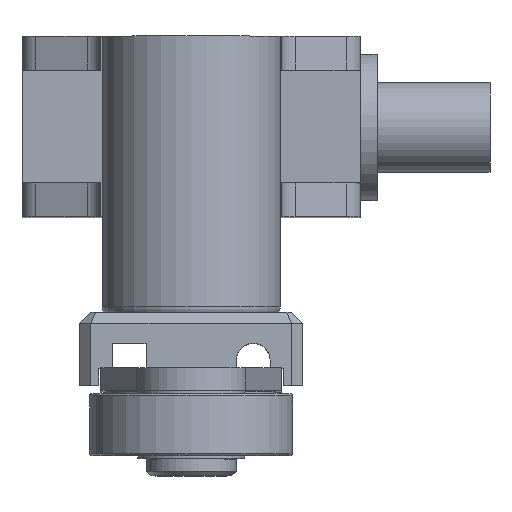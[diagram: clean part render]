
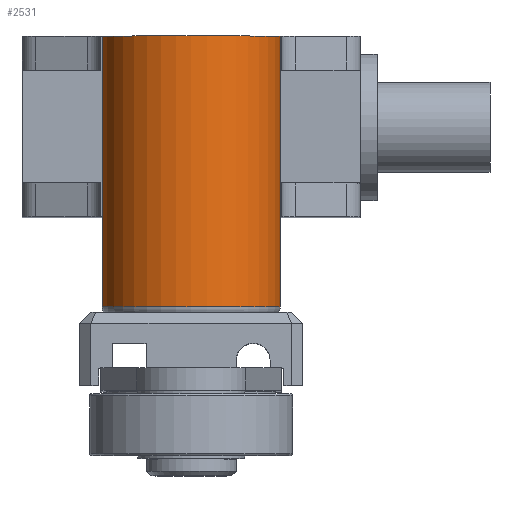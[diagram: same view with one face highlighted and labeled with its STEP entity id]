
A CAD part, top view. The second image highlights one B-rep face of the part: STEP entity #2531.
In plain terms, the highlighted cylindrical face has radius 7.9 mm (diameter 15.8 mm), a full revolution.
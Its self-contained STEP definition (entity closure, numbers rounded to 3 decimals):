
#346=FACE_OUTER_BOUND('',#516,.T.);
#516=EDGE_LOOP('',(#2319,#2320,#2321,#2322,#2323,#2324,#2325));
#753=LINE('',#4244,#994);
#754=LINE('',#4246,#995);
#755=LINE('',#4250,#996);
#994=VECTOR('',#3512,7.9);
#995=VECTOR('',#3513,10.);
#996=VECTOR('',#3516,10.);
#1098=CIRCLE('',#2795,7.9);
#1102=CIRCLE('',#2801,7.9);
#1103=CIRCLE('',#2802,7.9);
#1316=VERTEX_POINT('',#4234);
#1319=VERTEX_POINT('',#4243);
#1320=VERTEX_POINT('',#4245);
#1321=VERTEX_POINT('',#4247);
#1322=VERTEX_POINT('',#4249);
#1650=EDGE_CURVE('',#1316,#1316,#1098,.T.);
#1654=EDGE_CURVE('',#1316,#1319,#753,.T.);
#1655=EDGE_CURVE('',#1320,#1319,#754,.T.);
#1656=EDGE_CURVE('',#1321,#1320,#1102,.T.);
#1657=EDGE_CURVE('',#1321,#1322,#755,.T.);
#1658=EDGE_CURVE('',#1319,#1322,#1103,.T.);
#2319=ORIENTED_EDGE('',*,*,#1650,.F.);
#2320=ORIENTED_EDGE('',*,*,#1654,.T.);
#2321=ORIENTED_EDGE('',*,*,#1655,.F.);
#2322=ORIENTED_EDGE('',*,*,#1656,.F.);
#2323=ORIENTED_EDGE('',*,*,#1657,.T.);
#2324=ORIENTED_EDGE('',*,*,#1658,.F.);
#2325=ORIENTED_EDGE('',*,*,#1654,.F.);
#2391=CYLINDRICAL_SURFACE('',#2800,7.9);
#2531=ADVANCED_FACE('',(#346),#2391,.T.);
#2795=AXIS2_PLACEMENT_3D('',#4235,#3500,#3501);
#2800=AXIS2_PLACEMENT_3D('',#4242,#3510,#3511);
#2801=AXIS2_PLACEMENT_3D('',#4248,#3514,#3515);
#2802=AXIS2_PLACEMENT_3D('',#4251,#3517,#3518);
#3500=DIRECTION('center_axis',(0.,-1.,0.));
#3501=DIRECTION('ref_axis',(-1.,0.,0.));
#3510=DIRECTION('center_axis',(0.,-1.,0.));
#3511=DIRECTION('ref_axis',(-1.,0.,0.));
#3512=DIRECTION('',(0.,1.,0.));
#3513=DIRECTION('',(0.,-1.,0.));
#3514=DIRECTION('center_axis',(0.,1.,0.));
#3515=DIRECTION('ref_axis',(-1.,0.,0.));
#3516=DIRECTION('',(0.,-1.,0.));
#3517=DIRECTION('center_axis',(0.,1.,0.));
#3518=DIRECTION('ref_axis',(-1.,0.,0.));
#4234=CARTESIAN_POINT('',(7.9,-24.,18.));
#4235=CARTESIAN_POINT('Origin',(0.,-24.,18.));
#4242=CARTESIAN_POINT('Origin',(0.,0.,
18.));
#4243=CARTESIAN_POINT('',(7.9,-16.,18.));
#4244=CARTESIAN_POINT('',(7.9,0.,18.));
#4245=CARTESIAN_POINT('',(7.9,0.,18.));
#4246=CARTESIAN_POINT('',(7.9,0.,18.));
#4247=CARTESIAN_POINT('',(-7.9,0.,18.));
#4248=CARTESIAN_POINT('Origin',(0.,0.,
18.));
#4249=CARTESIAN_POINT('',(-7.9,-16.,18.));
#4250=CARTESIAN_POINT('',(-7.9,0.,18.));
#4251=CARTESIAN_POINT('Origin',(0.,-16.,18.));
